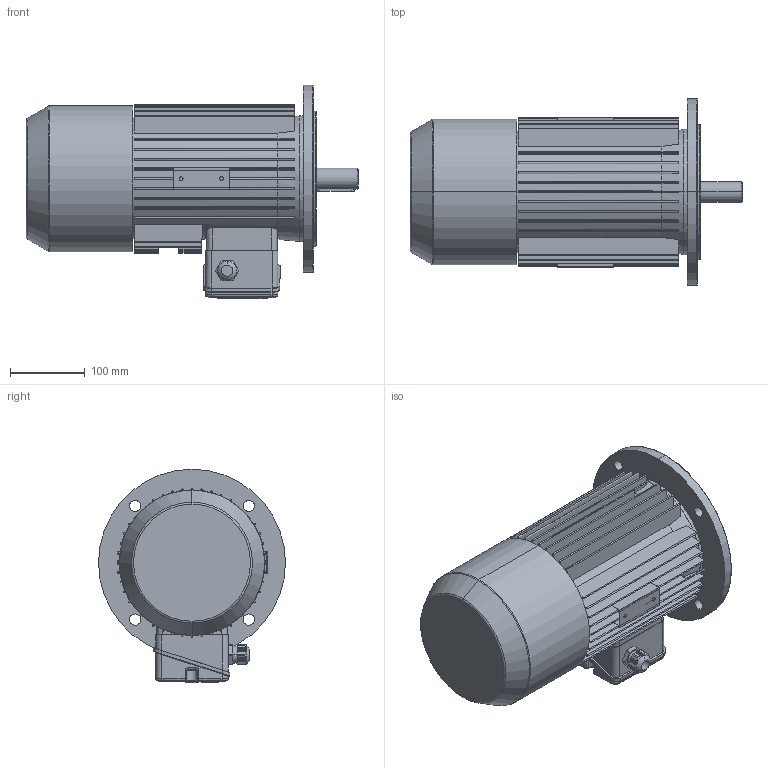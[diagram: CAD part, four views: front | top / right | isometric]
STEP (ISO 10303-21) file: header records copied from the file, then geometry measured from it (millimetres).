
FILE_DESCRIPTION (( 'STEP AP214' ), '1' );
FILE_NAME ('MAP100L6A IM3041 A250 FF215.STEP', '2021-03-05T12:12:16', ( '' ), ( '' ), 'SwSTEP 2.0', 'SolidWorks 2018', '' );
FILE_SCHEMA (( 'AUTOMOTIVE_DESIGN' ));
Length unit declared in the file: millimetre
Products named in the file (1): MAP100L6A IM3041 A250 FF215
Bounding box: 444 x 250 x 285.5 mm (x, y, z)
Volume: 10470163.5 mm3; surface area: 645307.7 mm2
Topology: 2 solids, 6 shells, 1150 faces, 2982 edges, 1869 vertices
Faces by surface type: plane 597, cylinder 260, bspline 176, torus 79, cone 36, sphere 2
Entity records: 43408 total; most frequent: CARTESIAN_POINT 16637, ORIENTED_EDGE 5924, DIRECTION 5146, EDGE_CURVE 2962, VERTEX_POINT 1869, AXIS2_PLACEMENT_3D 1789, VECTOR 1568, LINE 1568
